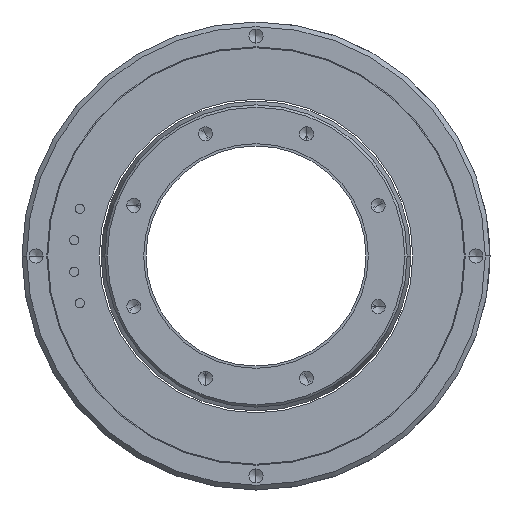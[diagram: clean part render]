
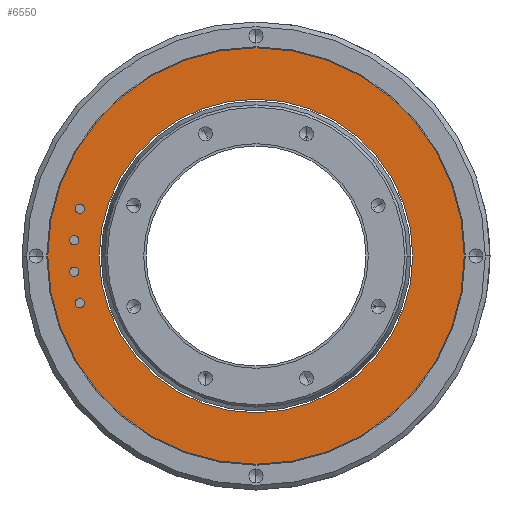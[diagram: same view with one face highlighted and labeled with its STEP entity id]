
A CAD part, left-side view. The second image highlights one B-rep face of the part: STEP entity #6550.
In plain terms, the highlighted planar face has unit normal (-1, 0, 0).
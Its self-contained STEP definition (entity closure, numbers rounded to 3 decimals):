
#6129=CARTESIAN_POINT('',(-47.25,0.,0.));
#6130=DIRECTION('',(-1.,0.,0.));
#6131=DIRECTION('',(0.,1.,0.));
#6132=AXIS2_PLACEMENT_3D('',#6129,#6130,#6131);
#6134=CARTESIAN_POINT('',(-47.25,0.,0.));
#6135=DIRECTION('',(1.,0.,0.));
#6136=DIRECTION('',(0.,1.,0.));
#6137=AXIS2_PLACEMENT_3D('',#6134,#6135,#6136);
#6139=CARTESIAN_POINT('',(-47.25,0.,0.));
#6140=DIRECTION('',(-1.,0.,0.));
#6141=DIRECTION('',(0.,1.,0.));
#6142=AXIS2_PLACEMENT_3D('',#6139,#6140,#6141);
#6144=CARTESIAN_POINT('',(-47.25,0.,0.));
#6145=DIRECTION('',(1.,0.,0.));
#6146=DIRECTION('',(0.,1.,0.));
#6147=AXIS2_PLACEMENT_3D('',#6144,#6145,#6146);
#6149=CARTESIAN_POINT('',(-47.25,37.671,-10.094));
#6150=DIRECTION('',(-1.,0.,0.));
#6151=DIRECTION('',(0.,0.,1.));
#6152=AXIS2_PLACEMENT_3D('',#6149,#6150,#6151);
#6154=CARTESIAN_POINT('',(-47.25,37.671,-10.094));
#6155=DIRECTION('',(-1.,0.,0.));
#6156=DIRECTION('',(0.,0.,-1.));
#6157=AXIS2_PLACEMENT_3D('',#6154,#6155,#6156);
#6159=CARTESIAN_POINT('',(-47.25,37.671,10.094));
#6160=DIRECTION('',(-1.,0.,0.));
#6161=DIRECTION('',(0.,0.,1.));
#6162=AXIS2_PLACEMENT_3D('',#6159,#6160,#6161);
#6164=CARTESIAN_POINT('',(-47.25,37.671,10.094));
#6165=DIRECTION('',(-1.,0.,0.));
#6166=DIRECTION('',(0.,0.,-1.));
#6167=AXIS2_PLACEMENT_3D('',#6164,#6165,#6166);
#6169=CARTESIAN_POINT('',(-47.25,38.852,3.399));
#6170=DIRECTION('',(-1.,0.,0.));
#6171=DIRECTION('',(0.,0.,1.));
#6172=AXIS2_PLACEMENT_3D('',#6169,#6170,#6171);
#6174=CARTESIAN_POINT('',(-47.25,38.852,3.399));
#6175=DIRECTION('',(-1.,0.,0.));
#6176=DIRECTION('',(0.,0.,-1.));
#6177=AXIS2_PLACEMENT_3D('',#6174,#6175,#6176);
#6179=CARTESIAN_POINT('',(-47.25,38.852,-3.399));
#6180=DIRECTION('',(-1.,0.,0.));
#6181=DIRECTION('',(0.,0.,1.));
#6182=AXIS2_PLACEMENT_3D('',#6179,#6180,#6181);
#6184=CARTESIAN_POINT('',(-47.25,38.852,-3.399));
#6185=DIRECTION('',(-1.,0.,0.));
#6186=DIRECTION('',(0.,0.,-1.));
#6187=AXIS2_PLACEMENT_3D('',#6184,#6185,#6186);
#6338=CARTESIAN_POINT('',(-47.25,44.5,0.));
#6340=VERTEX_POINT('',#6338);
#6341=CARTESIAN_POINT('',(-47.25,33.5,0.));
#6343=VERTEX_POINT('',#6341);
#6358=CARTESIAN_POINT('',(-47.25,-44.5,0.));
#6360=VERTEX_POINT('',#6358);
#6361=CARTESIAN_POINT('',(-47.25,-33.5,0.));
#6363=VERTEX_POINT('',#6361);
#6393=CARTESIAN_POINT('',(-47.25,37.671,-9.094));
#6394=CARTESIAN_POINT('',(-47.25,37.671,-11.094));
#6395=VERTEX_POINT('',#6393);
#6396=VERTEX_POINT('',#6394);
#6397=CARTESIAN_POINT('',(-47.25,37.671,11.094));
#6398=CARTESIAN_POINT('',(-47.25,37.671,9.094));
#6399=VERTEX_POINT('',#6397);
#6400=VERTEX_POINT('',#6398);
#6401=CARTESIAN_POINT('',(-47.25,38.852,4.399));
#6402=CARTESIAN_POINT('',(-47.25,38.852,2.399));
#6403=VERTEX_POINT('',#6401);
#6404=VERTEX_POINT('',#6402);
#6405=CARTESIAN_POINT('',(-47.25,38.852,-2.399));
#6406=CARTESIAN_POINT('',(-47.25,38.852,-4.399));
#6407=VERTEX_POINT('',#6405);
#6408=VERTEX_POINT('',#6406);
#6511=CARTESIAN_POINT('',(-47.25,0.,0.));
#6512=DIRECTION('',(1.,0.,0.));
#6513=DIRECTION('',(0.,-1.,0.));
#6514=AXIS2_PLACEMENT_3D('',#6511,#6512,#6513);
#6515=PLANE('',#6514);
#6517=ORIENTED_EDGE('',*,*,#6516,.F.);
#6519=ORIENTED_EDGE('',*,*,#6518,.T.);
#6520=EDGE_LOOP('',(#6517,#6519));
#6521=FACE_OUTER_BOUND('',#6520,.F.);
#6522=ORIENTED_EDGE('',*,*,#6504,.F.);
#6523=ORIENTED_EDGE('',*,*,#6493,.T.);
#6524=EDGE_LOOP('',(#6522,#6523));
#6525=FACE_BOUND('',#6524,.F.);
#6527=ORIENTED_EDGE('',*,*,#6526,.T.);
#6529=ORIENTED_EDGE('',*,*,#6528,.T.);
#6530=EDGE_LOOP('',(#6527,#6529));
#6531=FACE_BOUND('',#6530,.F.);
#6533=ORIENTED_EDGE('',*,*,#6532,.T.);
#6535=ORIENTED_EDGE('',*,*,#6534,.T.);
#6536=EDGE_LOOP('',(#6533,#6535));
#6537=FACE_BOUND('',#6536,.F.);
#6539=ORIENTED_EDGE('',*,*,#6538,.T.);
#6541=ORIENTED_EDGE('',*,*,#6540,.T.);
#6542=EDGE_LOOP('',(#6539,#6541));
#6543=FACE_BOUND('',#6542,.F.);
#6545=ORIENTED_EDGE('',*,*,#6544,.T.);
#6547=ORIENTED_EDGE('',*,*,#6546,.T.);
#6548=EDGE_LOOP('',(#6545,#6547));
#6549=FACE_BOUND('',#6548,.F.);
#6550=ADVANCED_FACE('',(#6521,#6525,#6531,#6537,#6543,#6549),#6515,.F.);
#6133=CIRCLE('',#6132,33.5);
#6138=CIRCLE('',#6137,33.5);
#6143=CIRCLE('',#6142,44.5);
#6148=CIRCLE('',#6147,44.5);
#6153=CIRCLE('',#6152,1.);
#6158=CIRCLE('',#6157,1.);
#6163=CIRCLE('',#6162,1.);
#6168=CIRCLE('',#6167,1.);
#6173=CIRCLE('',#6172,1.);
#6178=CIRCLE('',#6177,1.);
#6183=CIRCLE('',#6182,1.);
#6188=CIRCLE('',#6187,1.);
#6493=EDGE_CURVE('',#6343,#6363,#6133,.T.);
#6504=EDGE_CURVE('',#6343,#6363,#6138,.T.);
#6516=EDGE_CURVE('',#6340,#6360,#6143,.T.);
#6518=EDGE_CURVE('',#6340,#6360,#6148,.T.);
#6526=EDGE_CURVE('',#6395,#6396,#6153,.T.);
#6528=EDGE_CURVE('',#6396,#6395,#6158,.T.);
#6532=EDGE_CURVE('',#6399,#6400,#6163,.T.);
#6534=EDGE_CURVE('',#6400,#6399,#6168,.T.);
#6538=EDGE_CURVE('',#6403,#6404,#6173,.T.);
#6540=EDGE_CURVE('',#6404,#6403,#6178,.T.);
#6544=EDGE_CURVE('',#6407,#6408,#6183,.T.);
#6546=EDGE_CURVE('',#6408,#6407,#6188,.T.);
